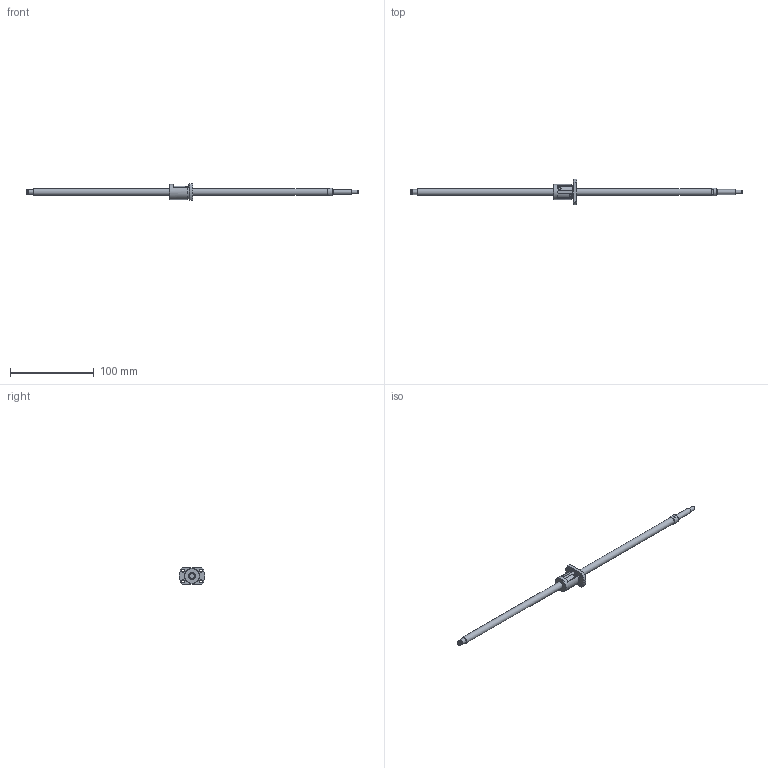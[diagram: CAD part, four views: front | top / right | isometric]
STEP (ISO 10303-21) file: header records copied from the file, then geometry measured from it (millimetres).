
FILE_DESCRIPTION(/* description */ ('STEP AP214'),/* implementation_level */ '2;1');
FILE_NAME(/* name */ 'SRT0805-347R397C7B0X(162.5Processing)',/* time_stamp */ '2026-08-04T20:03:01+02:00',/* author */ ('License CC BY-ND 4.0'),/* organization */ ('CADENAS'),/* preprocessor_version */ 'ST-DEVELOPER v20',/* originating_system */ 'PARTsolutions',/* authorisation */ ' ');
FILE_SCHEMA (('AUTOMOTIVE_DESIGN {1 0 10303 214 3 1 1}'));
Length unit declared in the file: millimetre
Products named in the file (3): SRT0805-347R397C7B0X(162.5Processing); SRT0805-347R430BCt7Processing42Shaft; SRT0805Nut
Assembly tree (2 placements, depth 2):
  SRT0805-347R397C7B0X(162.5Processing)
    SRT0805-347R430BCt7Processing42Shaft
    SRT0805Nut
Bounding box: 397 x 30.91 x 20 mm (x, y, z)
Volume: 25525.5 mm3; surface area: 13416.1 mm2
Topology: 2 solids, 2 shells, 75 faces, 173 edges, 110 vertices
Faces by surface type: plane 46, cylinder 18, cone 10, torus 1
Full cylindrical faces by diameter (mm): 3.4 x4, 4.5 x1, 5.7 x1, 6 x3, 8 x2, 9.5 x1, 17.7 x1, 18 x1
Entity records: 2055 total; most frequent: CARTESIAN_POINT 366, DIRECTION 352, ORIENTED_EDGE 286, EDGE_CURVE 143, AXIS2_PLACEMENT_3D 141, EDGE_LOOP 114, FACE_BOUND 114, VERTEX_POINT 101
